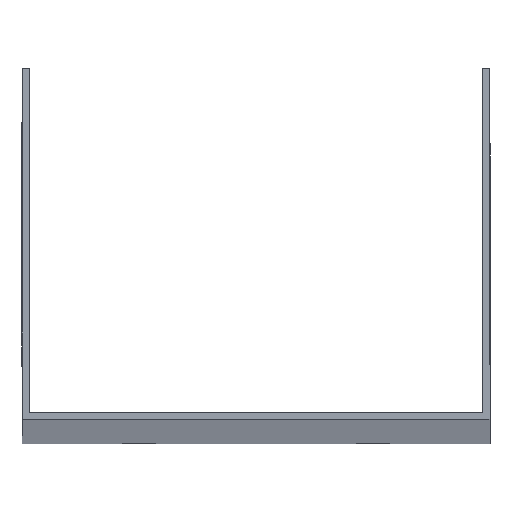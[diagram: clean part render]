
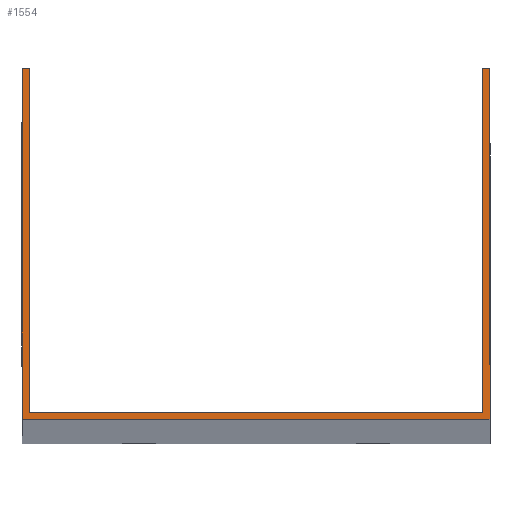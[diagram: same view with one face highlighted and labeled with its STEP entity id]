
A CAD part, top view. The second image highlights one B-rep face of the part: STEP entity #1554.
In plain terms, the highlighted planar face has unit normal (0, 0, 1).
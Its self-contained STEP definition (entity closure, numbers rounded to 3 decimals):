
#29 = ORIENTED_EDGE ( 'NONE', *, *, #1842, .T. ) ;
#170 = CARTESIAN_POINT ( 'NONE',  ( 50., 75., 1500. ) ) ;
#237 = EDGE_LOOP ( 'NONE', ( #2362, #2359, #29, #1190, #951, #665, #1854, #416 ) ) ;
#243 = CARTESIAN_POINT ( 'NONE',  ( -50., 75., 1500. ) ) ;
#289 = VERTEX_POINT ( 'NONE', #702 ) ;
#324 = DIRECTION ( 'NONE',  ( 1., 0., 0. ) ) ;
#416 = ORIENTED_EDGE ( 'NONE', *, *, #3247, .F. ) ;
#417 = CARTESIAN_POINT ( 'NONE',  ( -50., 75., 1500. ) ) ;
#422 = DIRECTION ( 'NONE',  ( 0., 1., 0. ) ) ;
#475 = DIRECTION ( 'NONE',  ( 0., -1., 0. ) ) ;
#479 = EDGE_CURVE ( 'NONE', #2965, #2301, #2418, .T. ) ;
#514 = LINE ( 'NONE', #1587, #2061 ) ;
#545 = CARTESIAN_POINT ( 'NONE',  ( -50., 75., 1500. ) ) ;
#553 = CARTESIAN_POINT ( 'NONE',  ( 50., 0., 1500. ) ) ;
#560 = VERTEX_POINT ( 'NONE', #1099 ) ;
#665 = ORIENTED_EDGE ( 'NONE', *, *, #479, .T. ) ;
#702 = CARTESIAN_POINT ( 'NONE',  ( -48.5, 75., 1500. ) ) ;
#706 = LINE ( 'NONE', #2893, #2913 ) ;
#775 = CARTESIAN_POINT ( 'NONE',  ( 48.5, 75., 1500. ) ) ;
#787 = CARTESIAN_POINT ( 'NONE',  ( 48.5, 75., 1500. ) ) ;
#882 = VERTEX_POINT ( 'NONE', #2649 ) ;
#927 = CARTESIAN_POINT ( 'NONE',  ( -50., 0., 1500. ) ) ;
#951 = ORIENTED_EDGE ( 'NONE', *, *, #3042, .T. ) ;
#990 = CARTESIAN_POINT ( 'NONE',  ( -50., 75., 1500. ) ) ;
#1054 = VECTOR ( 'NONE', #2762, 1000. ) ;
#1071 = LINE ( 'NONE', #775, #3325 ) ;
#1099 = CARTESIAN_POINT ( 'NONE',  ( -50., 0., 1500. ) ) ;
#1187 = CARTESIAN_POINT ( 'NONE',  ( -50., 1.5, 1500. ) ) ;
#1190 = ORIENTED_EDGE ( 'NONE', *, *, #1495, .T. ) ;
#1367 = VERTEX_POINT ( 'NONE', #553 ) ;
#1495 = EDGE_CURVE ( 'NONE', #560, #1367, #2072, .T. ) ;
#1533 = DIRECTION ( 'NONE',  ( 1., 0., 0. ) ) ;
#1554 = ADVANCED_FACE ( 'NONE', ( #3440 ), #2892, .T. ) ;
#1573 = VECTOR ( 'NONE', #2690, 1000. ) ;
#1587 = CARTESIAN_POINT ( 'NONE',  ( -48.5, 75., 1500. ) ) ;
#1633 = VERTEX_POINT ( 'NONE', #243 ) ;
#1737 = DIRECTION ( 'NONE',  ( -1., 0., 0. ) ) ;
#1842 = EDGE_CURVE ( 'NONE', #1633, #560, #1928, .T. ) ;
#1843 = DIRECTION ( 'NONE',  ( 0., 1., 0. ) ) ;
#1854 = ORIENTED_EDGE ( 'NONE', *, *, #3065, .F. ) ;
#1918 = VECTOR ( 'NONE', #1533, 1000. ) ;
#1928 = LINE ( 'NONE', #545, #1054 ) ;
#1956 = LINE ( 'NONE', #1187, #2294 ) ;
#1996 = VERTEX_POINT ( 'NONE', #2926 ) ;
#2008 = CARTESIAN_POINT ( 'NONE',  ( 0., 0., 1500. ) ) ;
#2061 = VECTOR ( 'NONE', #475, 1000. ) ;
#2072 = LINE ( 'NONE', #927, #1918 ) ;
#2087 = AXIS2_PLACEMENT_3D ( 'NONE', #2008, #2612, #3426 ) ;
#2189 = EDGE_CURVE ( 'NONE', #289, #1633, #3126, .T. ) ;
#2294 = VECTOR ( 'NONE', #324, 1000. ) ;
#2301 = VERTEX_POINT ( 'NONE', #787 ) ;
#2359 = ORIENTED_EDGE ( 'NONE', *, *, #2189, .T. ) ;
#2362 = ORIENTED_EDGE ( 'NONE', *, *, #3150, .F. ) ;
#2418 = LINE ( 'NONE', #990, #1573 ) ;
#2451 = VECTOR ( 'NONE', #1737, 1000. ) ;
#2612 = DIRECTION ( 'NONE',  ( 0., 0., 1. ) ) ;
#2649 = CARTESIAN_POINT ( 'NONE',  ( -48.5, 1.5, 1500. ) ) ;
#2690 = DIRECTION ( 'NONE',  ( -1., 0., 0. ) ) ;
#2762 = DIRECTION ( 'NONE',  ( 0., -1., 0. ) ) ;
#2892 = PLANE ( 'NONE',  #2087 ) ;
#2893 = CARTESIAN_POINT ( 'NONE',  ( 50., 75., 1500. ) ) ;
#2913 = VECTOR ( 'NONE', #422, 1000. ) ;
#2926 = CARTESIAN_POINT ( 'NONE',  ( 48.5, 1.5, 1500. ) ) ;
#2965 = VERTEX_POINT ( 'NONE', #170 ) ;
#3042 = EDGE_CURVE ( 'NONE', #1367, #2965, #706, .T. ) ;
#3065 = EDGE_CURVE ( 'NONE', #1996, #2301, #1071, .T. ) ;
#3126 = LINE ( 'NONE', #417, #2451 ) ;
#3150 = EDGE_CURVE ( 'NONE', #289, #882, #514, .T. ) ;
#3247 = EDGE_CURVE ( 'NONE', #882, #1996, #1956, .T. ) ;
#3325 = VECTOR ( 'NONE', #1843, 1000. ) ;
#3426 = DIRECTION ( 'NONE',  ( 1., 0., 0. ) ) ;
#3440 = FACE_OUTER_BOUND ( 'NONE', #237, .T. ) ;
